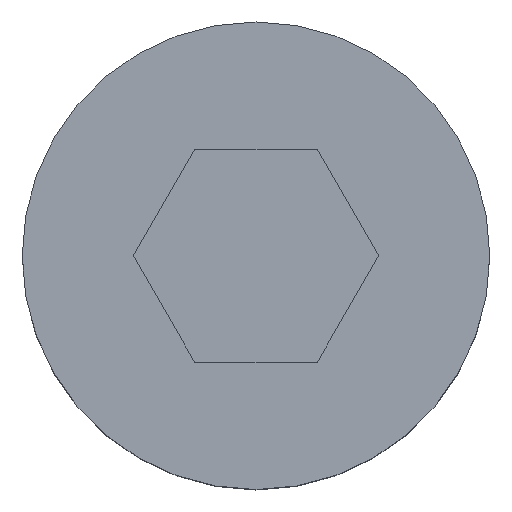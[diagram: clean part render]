
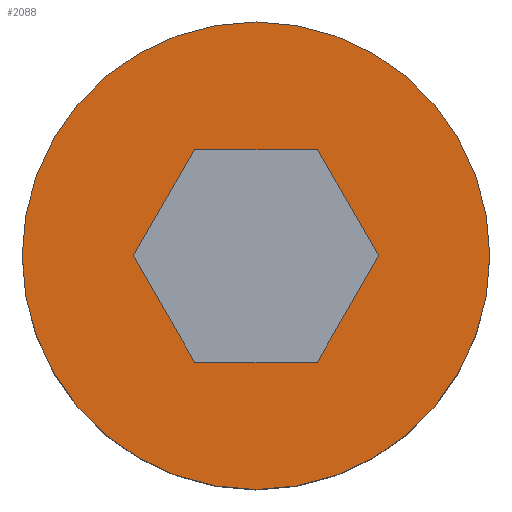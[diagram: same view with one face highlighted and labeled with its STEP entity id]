
A CAD part, top view. The second image highlights one B-rep face of the part: STEP entity #2088.
In plain terms, the highlighted planar face has unit normal (0, 0, 1).
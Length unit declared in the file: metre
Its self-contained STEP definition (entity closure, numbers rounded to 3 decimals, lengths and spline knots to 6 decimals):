
#19 = CARTESIAN_POINT ( 'NONE',  ( 0., 0., 0.003 ) ) ;
#25 = CARTESIAN_POINT ( 'NONE',  ( 0.000722, -0.00125, 0.003 ) ) ;
#71 = DIRECTION ( 'NONE',  ( -1., 0., 0. ) ) ;
#146 = VERTEX_POINT ( 'NONE', #1449 ) ;
#188 = DIRECTION ( 'NONE',  ( 1., 0., 0. ) ) ;
#213 = CARTESIAN_POINT ( 'NONE',  ( -0.000722, -0.00125, 0.003 ) ) ;
#261 = AXIS2_PLACEMENT_3D ( 'NONE', #1191, #1930, #1524 ) ;
#262 = LINE ( 'NONE', #2215, #549 ) ;
#326 = DIRECTION ( 'NONE',  ( 0., 0., 1. ) ) ;
#355 = EDGE_CURVE ( 'NONE', #1762, #840, #740, .T. ) ;
#374 = VECTOR ( 'NONE', #188, 1. ) ;
#377 = DIRECTION ( 'NONE',  ( -0.5, 0.866, 0. ) ) ;
#378 = AXIS2_PLACEMENT_3D ( 'NONE', #19, #534, #722 ) ;
#390 = CARTESIAN_POINT ( 'NONE',  ( 0.001443, 0., 0.003 ) ) ;
#475 = CARTESIAN_POINT ( 'NONE',  ( -0.00275, 0., 0.003 ) ) ;
#502 = VERTEX_POINT ( 'NONE', #2101 ) ;
#534 = DIRECTION ( 'NONE',  ( 0., 0., 1. ) ) ;
#541 = VERTEX_POINT ( 'NONE', #793 ) ;
#549 = VECTOR ( 'NONE', #1506, 1. ) ;
#594 = EDGE_CURVE ( 'NONE', #2292, #1957, #2217, .T. ) ;
#686 = ORIENTED_EDGE ( 'NONE', *, *, #1663, .F. ) ;
#709 = DIRECTION ( 'NONE',  ( 0.5, -0.866, 0. ) ) ;
#722 = DIRECTION ( 'NONE',  ( 1., 0., 0. ) ) ;
#740 = CIRCLE ( 'NONE', #261, 0.00275 ) ;
#756 = EDGE_LOOP ( 'NONE', ( #1933, #854 ) ) ;
#793 = CARTESIAN_POINT ( 'NONE',  ( -0.001443, 0., 0.003 ) ) ;
#829 = EDGE_LOOP ( 'NONE', ( #866, #686, #1609, #2061, #1771, #2318 ) ) ;
#840 = VERTEX_POINT ( 'NONE', #475 ) ;
#854 = ORIENTED_EDGE ( 'NONE', *, *, #355, .T. ) ;
#866 = ORIENTED_EDGE ( 'NONE', *, *, #1645, .F. ) ;
#872 = VERTEX_POINT ( 'NONE', #2123 ) ;
#886 = PLANE ( 'NONE',  #378 ) ;
#892 = CIRCLE ( 'NONE', #1592, 0.00275 ) ;
#900 = CARTESIAN_POINT ( 'NONE',  ( -0.000722, 0.00125, 0.003 ) ) ;
#910 = FACE_BOUND ( 'NONE', #829, .T. ) ;
#1095 = FACE_OUTER_BOUND ( 'NONE', #756, .T. ) ;
#1146 = CARTESIAN_POINT ( 'NONE',  ( 0.00275, 0., 0.003 ) ) ;
#1159 = VECTOR ( 'NONE', #709, 1. ) ;
#1191 = CARTESIAN_POINT ( 'NONE',  ( 0., 0., 0.003 ) ) ;
#1274 = LINE ( 'NONE', #213, #374 ) ;
#1384 = LINE ( 'NONE', #1751, #1159 ) ;
#1390 = VECTOR ( 'NONE', #1810, 1. ) ;
#1449 = CARTESIAN_POINT ( 'NONE',  ( 0.001443, 0., 0.003 ) ) ;
#1506 = DIRECTION ( 'NONE',  ( -0.5, -0.866, 0. ) ) ;
#1524 = DIRECTION ( 'NONE',  ( 1., 0., 0. ) ) ;
#1526 = EDGE_CURVE ( 'NONE', #541, #872, #1384, .T. ) ;
#1592 = AXIS2_PLACEMENT_3D ( 'NONE', #1945, #326, #1760 ) ;
#1600 = EDGE_CURVE ( 'NONE', #840, #1762, #892, .T. ) ;
#1609 = ORIENTED_EDGE ( 'NONE', *, *, #1526, .F. ) ;
#1645 = EDGE_CURVE ( 'NONE', #502, #146, #2182, .T. ) ;
#1663 = EDGE_CURVE ( 'NONE', #872, #502, #1274, .T. ) ;
#1751 = CARTESIAN_POINT ( 'NONE',  ( -0.001443, 0., 0.003 ) ) ;
#1760 = DIRECTION ( 'NONE',  ( 1., 0., 0. ) ) ;
#1762 = VERTEX_POINT ( 'NONE', #1146 ) ;
#1771 = ORIENTED_EDGE ( 'NONE', *, *, #594, .F. ) ;
#1810 = DIRECTION ( 'NONE',  ( 0.5, 0.866, 0. ) ) ;
#1854 = CARTESIAN_POINT ( 'NONE',  ( 0.000722, 0.00125, 0.003 ) ) ;
#1858 = EDGE_CURVE ( 'NONE', #1957, #541, #262, .T. ) ;
#1930 = DIRECTION ( 'NONE',  ( 0., 0., 1. ) ) ;
#1933 = ORIENTED_EDGE ( 'NONE', *, *, #1600, .T. ) ;
#1945 = CARTESIAN_POINT ( 'NONE',  ( 0., 0., 0.003 ) ) ;
#1957 = VERTEX_POINT ( 'NONE', #900 ) ;
#2005 = VECTOR ( 'NONE', #377, 1. ) ;
#2061 = ORIENTED_EDGE ( 'NONE', *, *, #1858, .F. ) ;
#2079 = EDGE_CURVE ( 'NONE', #146, #2292, #2168, .T. ) ;
#2088 = ADVANCED_FACE ( 'NONE', ( #910, #1095 ), #886, .T. ) ;
#2101 = CARTESIAN_POINT ( 'NONE',  ( 0.000722, -0.00125, 0.003 ) ) ;
#2123 = CARTESIAN_POINT ( 'NONE',  ( -0.000722, -0.00125, 0.003 ) ) ;
#2168 = LINE ( 'NONE', #390, #2005 ) ;
#2182 = LINE ( 'NONE', #25, #1390 ) ;
#2215 = CARTESIAN_POINT ( 'NONE',  ( -0.000722, 0.00125, 0.003 ) ) ;
#2217 = LINE ( 'NONE', #1854, #2228 ) ;
#2221 = CARTESIAN_POINT ( 'NONE',  ( 0.000722, 0.00125, 0.003 ) ) ;
#2228 = VECTOR ( 'NONE', #71, 1. ) ;
#2292 = VERTEX_POINT ( 'NONE', #2221 ) ;
#2318 = ORIENTED_EDGE ( 'NONE', *, *, #2079, .F. ) ;
